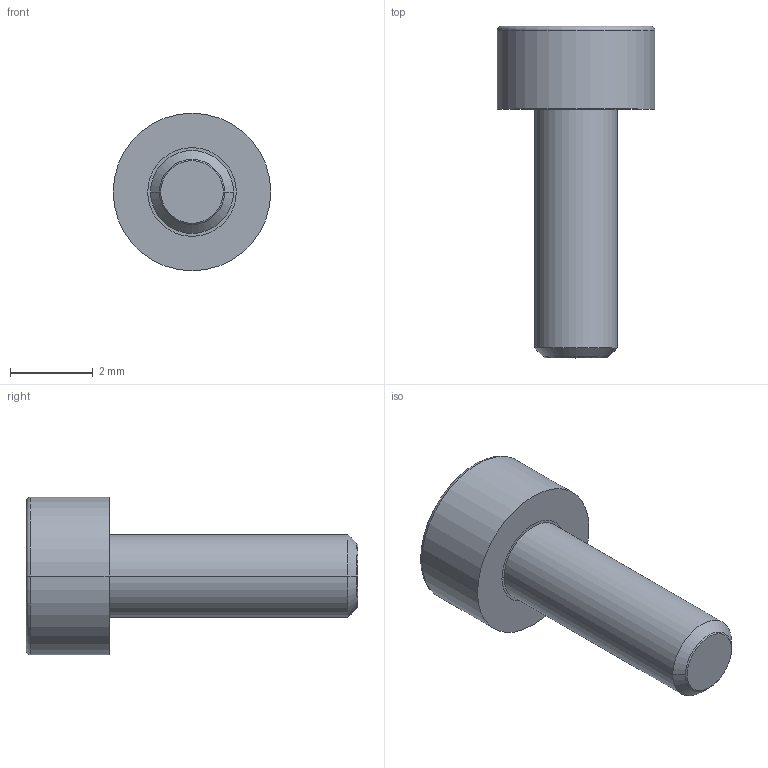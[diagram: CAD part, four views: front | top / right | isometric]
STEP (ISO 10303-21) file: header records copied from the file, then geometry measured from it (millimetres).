
FILE_DESCRIPTION(/* description */ ('VariCAD 2010-1.04 AP-203'),/* implementation_level */ '2;1');
FILE_NAME(/* name */ '0353-99-20',/* time_stamp */ '2010-01-13T19:15:18-07:00',/* author */ (''),/* organization */ (''),/* preprocessor_version */ 'ST-DEVELOPER v12',/* originating_system */ 'VariCAD 2010-1.04; kernel version (20090520)',/* authorisation */ '');
FILE_SCHEMA (('CONFIG_CONTROL_DESIGN'));
Length unit declared in the file: millimetre
Products named in the file (1): Part
Bounding box: 3.8 x 8 x 3.8 mm (x, y, z)
Volume: 38.9 mm3; surface area: 149.7 mm2
Topology: 2 solids, 2 shells, 36 faces, 74 edges, 43 vertices
Faces by surface type: cone 14, plane 12, cylinder 8, torus 2
Entity records: 1052 total; most frequent: CARTESIAN_POINT 260, DIRECTION 164, ORIENTED_EDGE 144, EDGE_CURVE 72, AXIS2_PLACEMENT_3D 71, VERTEX_POINT 43, EDGE_LOOP 41, ADVANCED_FACE 36
